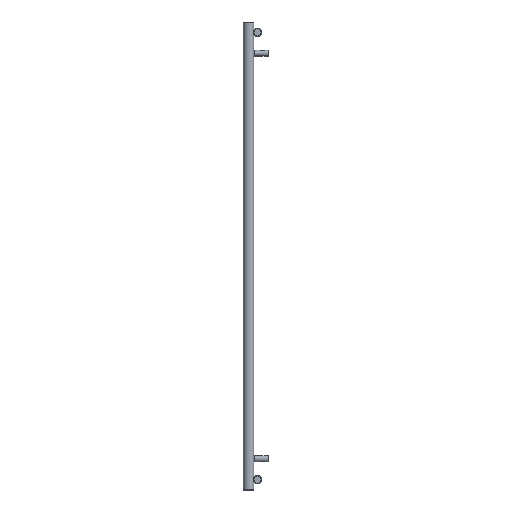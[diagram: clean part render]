
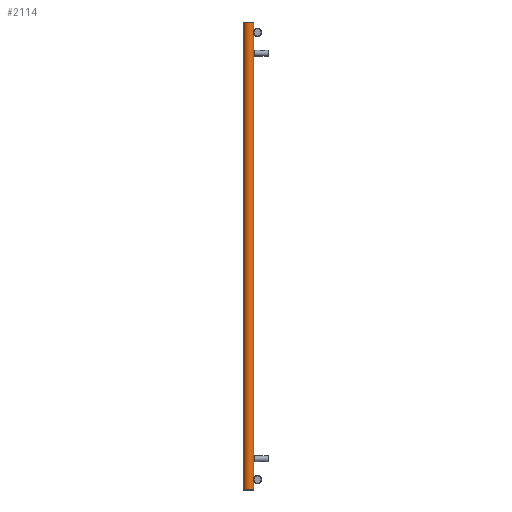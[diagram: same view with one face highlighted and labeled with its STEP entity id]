
A CAD part, left-side view. The second image highlights one B-rep face of the part: STEP entity #2114.
In plain terms, the highlighted cylindrical face has radius 20 mm (diameter 40 mm), a full revolution.
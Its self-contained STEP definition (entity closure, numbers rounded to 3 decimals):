
#164=FACE_BOUND('',#524,.T.);
#165=FACE_BOUND('',#525,.T.);
#199=LINE('',#3579,#274);
#274=VECTOR('',#2618,20.);
#349=CYLINDRICAL_SURFACE('',#2300,20.);
#382=FACE_OUTER_BOUND('',#523,.T.);
#523=EDGE_LOOP('',(#1469,#1470,#1471,#1472,#1473));
#524=EDGE_LOOP('',(#1474));
#525=EDGE_LOOP('',(#1475));
#692=B_SPLINE_CURVE_WITH_KNOTS('',3,(#3463,#3464,#3465,#3466,#3467,#3468,
#3469,#3470,#3471,#3472,#3473,#3474,#3475,#3476,#3477,#3478,#3479,#3480,
#3481,#3482,#3483),.UNSPECIFIED.,.T.,.F.,(4,1,1,1,1,1,1,1,1,1,1,1,1,1,1,
1,1,1,4),(-5.132,-4.765,-4.399,-4.154,
-3.91,-3.788,-3.666,-3.421,
-3.177,-2.933,-2.688,-2.199,
-1.955,-1.711,-1.466,-1.1,
-0.733,-0.367,0.),.UNSPECIFIED.);
#697=B_SPLINE_CURVE_WITH_KNOTS('',3,(#3583,#3584,#3585,#3586,#3587,#3588,
#3589,#3590,#3591,#3592,#3593,#3594,#3595,#3596,#3597,#3598,#3599,#3600,
#3601,#3602,#3603,#3604,#3605,#3606,#3607,#3608,#3609,#3610,#3611,#3612,
#3613,#3614,#3615,#3616,#3617,#3618,#3619,#3620,#3621,#3622,#3623,#3624,
#3625,#3626,#3627,#3628,#3629,#3630,#3631,#3632,#3633,#3634),
 .UNSPECIFIED.,.T.,.F.,(4,3,3,3,3,3,3,3,3,3,3,3,3,3,3,3,3,4),(-5.132,
-4.765,-4.399,-4.032,-3.666,
-3.421,-3.177,-2.933,-2.688,
-2.199,-1.955,-1.711,-1.466,
-1.222,-0.978,-0.733,-0.367,
0.),.UNSPECIFIED.);
#751=CIRCLE('',#2301,20.);
#752=CIRCLE('',#2302,20.);
#753=CIRCLE('',#2303,20.);
#913=VERTEX_POINT('',#3439);
#921=VERTEX_POINT('',#3575);
#922=VERTEX_POINT('',#3576);
#923=VERTEX_POINT('',#3578);
#924=VERTEX_POINT('',#3582);
#1135=EDGE_CURVE('',#913,#913,#692,.T.);
#1143=EDGE_CURVE('',#921,#922,#751,.T.);
#1144=EDGE_CURVE('',#921,#923,#199,.T.);
#1145=EDGE_CURVE('',#923,#923,#752,.T.);
#1146=EDGE_CURVE('',#922,#921,#753,.T.);
#1147=EDGE_CURVE('',#924,#924,#697,.T.);
#1469=ORIENTED_EDGE('',*,*,#1143,.F.);
#1470=ORIENTED_EDGE('',*,*,#1144,.T.);
#1471=ORIENTED_EDGE('',*,*,#1145,.F.);
#1472=ORIENTED_EDGE('',*,*,#1144,.F.);
#1473=ORIENTED_EDGE('',*,*,#1146,.F.);
#1474=ORIENTED_EDGE('',*,*,#1147,.F.);
#1475=ORIENTED_EDGE('',*,*,#1135,.F.);
#2114=ADVANCED_FACE('',(#382,#164,#165),#349,.T.);
#2300=AXIS2_PLACEMENT_3D('',#3574,#2614,#2615);
#2301=AXIS2_PLACEMENT_3D('',#3577,#2616,#2617);
#2302=AXIS2_PLACEMENT_3D('',#3580,#2619,#2620);
#2303=AXIS2_PLACEMENT_3D('',#3581,#2621,#2622);
#2614=DIRECTION('center_axis',(0.,0.,1.));
#2615=DIRECTION('ref_axis',(-1.,0.,0.));
#2616=DIRECTION('center_axis',(0.,0.,1.));
#2617=DIRECTION('ref_axis',(-1.,0.,0.));
#2618=DIRECTION('',(0.,0.,-1.));
#2619=DIRECTION('center_axis',(0.,0.,-1.));
#2620=DIRECTION('ref_axis',(-1.,0.,0.));
#2621=DIRECTION('center_axis',(0.,0.,1.));
#2622=DIRECTION('ref_axis',(-1.,0.,0.));
#3439=CARTESIAN_POINT('',(-220.,-20.,50.1));
#3463=CARTESIAN_POINT('Ctrl Pts',(-220.,-20.,50.1));
#3464=CARTESIAN_POINT('Ctrl Pts',(-221.611,-20.,50.1));
#3465=CARTESIAN_POINT('Ctrl Pts',(-224.838,-19.598,49.587));
#3466=CARTESIAN_POINT('Ctrl Pts',(-228.411,-18.224,47.307));
#3467=CARTESIAN_POINT('Ctrl Pts',(-230.379,-17.114,44.115));
#3468=CARTESIAN_POINT('Ctrl Pts',(-230.993,-16.707,41.396));
#3469=CARTESIAN_POINT('Ctrl Pts',(-230.992,-16.708,39.163));
#3470=CARTESIAN_POINT('Ctrl Pts',(-230.666,-16.92,36.968));
#3471=CARTESIAN_POINT('Ctrl Pts',(-229.649,-17.552,34.429));
#3472=CARTESIAN_POINT('Ctrl Pts',(-227.534,-18.592,32.083));
#3473=CARTESIAN_POINT('Ctrl Pts',(-224.761,-19.504,30.58));
#3474=CARTESIAN_POINT('Ctrl Pts',(-220.581,-20.198,29.637));
#3475=CARTESIAN_POINT('Ctrl Pts',(-216.165,-19.824,30.09));
#3476=CARTESIAN_POINT('Ctrl Pts',(-212.466,-18.588,32.082));
#3477=CARTESIAN_POINT('Ctrl Pts',(-210.351,-17.556,34.43));
#3478=CARTESIAN_POINT('Ctrl Pts',(-208.927,-16.66,37.98));
#3479=CARTESIAN_POINT('Ctrl Pts',(-208.922,-16.66,42.599));
#3480=CARTESIAN_POINT('Ctrl Pts',(-211.137,-18.052,47.027));
#3481=CARTESIAN_POINT('Ctrl Pts',(-215.165,-19.6,49.585));
#3482=CARTESIAN_POINT('Ctrl Pts',(-218.389,-20.,50.1));
#3483=CARTESIAN_POINT('Ctrl Pts',(-220.,-20.,50.1));
#3574=CARTESIAN_POINT('Origin',(-220.,0.,0.));
#3575=CARTESIAN_POINT('',(-200.,0.,1798.));
#3576=CARTESIAN_POINT('',(-240.,0.,1798.));
#3577=CARTESIAN_POINT('Origin',(-220.,0.,1798.));
#3578=CARTESIAN_POINT('',(-200.,0.,2.));
#3579=CARTESIAN_POINT('',(-200.,0.,0.));
#3580=CARTESIAN_POINT('Origin',(-220.,0.,2.));
#3581=CARTESIAN_POINT('Origin',(-220.,0.,1798.));
#3582=CARTESIAN_POINT('',(-220.,-20.,1770.1));
#3583=CARTESIAN_POINT('Ctrl Pts',(-220.,-20.,1770.1));
#3584=CARTESIAN_POINT('Ctrl Pts',(-221.611,-20.,1770.1));
#3585=CARTESIAN_POINT('Ctrl Pts',(-223.223,-19.8,1769.843));
#3586=CARTESIAN_POINT('Ctrl Pts',(-224.7,-19.442,1769.288));
#3587=CARTESIAN_POINT('Ctrl Pts',(-226.178,-19.084,1768.733));
#3588=CARTESIAN_POINT('Ctrl Pts',(-227.52,-18.568,1767.88));
#3589=CARTESIAN_POINT('Ctrl Pts',(-228.561,-18.078,1766.716));
#3590=CARTESIAN_POINT('Ctrl Pts',(-229.601,-17.588,1765.552));
#3591=CARTESIAN_POINT('Ctrl Pts',(-230.34,-17.124,1764.076));
#3592=CARTESIAN_POINT('Ctrl Pts',(-230.708,-16.892,1762.472));
#3593=CARTESIAN_POINT('Ctrl Pts',(-231.076,-16.659,1760.868));
#3594=CARTESIAN_POINT('Ctrl Pts',(-231.074,-16.66,1759.136));
#3595=CARTESIAN_POINT('Ctrl Pts',(-230.707,-16.889,1757.53));
#3596=CARTESIAN_POINT('Ctrl Pts',(-230.462,-17.042,1756.459));
#3597=CARTESIAN_POINT('Ctrl Pts',(-230.056,-17.297,1755.444));
#3598=CARTESIAN_POINT('Ctrl Pts',(-229.5,-17.598,1754.546));
#3599=CARTESIAN_POINT('Ctrl Pts',(-228.944,-17.898,1753.647));
#3600=CARTESIAN_POINT('Ctrl Pts',(-228.239,-18.244,1752.865));
#3601=CARTESIAN_POINT('Ctrl Pts',(-227.424,-18.569,1752.223));
#3602=CARTESIAN_POINT('Ctrl Pts',(-226.61,-18.894,1751.582));
#3603=CARTESIAN_POINT('Ctrl Pts',(-225.685,-19.198,1751.081));
#3604=CARTESIAN_POINT('Ctrl Pts',(-224.7,-19.437,1750.713));
#3605=CARTESIAN_POINT('Ctrl Pts',(-223.716,-19.677,1750.345));
#3606=CARTESIAN_POINT('Ctrl Pts',(-222.671,-19.852,1750.11));
#3607=CARTESIAN_POINT('Ctrl Pts',(-221.606,-19.937,1749.991));
#3608=CARTESIAN_POINT('Ctrl Pts',(-219.477,-20.106,1749.752));
#3609=CARTESIAN_POINT('Ctrl Pts',(-217.268,-19.915,1749.976));
#3610=CARTESIAN_POINT('Ctrl Pts',(-215.299,-19.441,1750.715));
#3611=CARTESIAN_POINT('Ctrl Pts',(-214.315,-19.205,1751.084));
#3612=CARTESIAN_POINT('Ctrl Pts',(-213.39,-18.897,1751.583));
#3613=CARTESIAN_POINT('Ctrl Pts',(-212.575,-18.571,1752.224));
#3614=CARTESIAN_POINT('Ctrl Pts',(-211.761,-18.244,1752.865));
#3615=CARTESIAN_POINT('Ctrl Pts',(-211.056,-17.9,1753.648));
#3616=CARTESIAN_POINT('Ctrl Pts',(-210.5,-17.6,1754.547));
#3617=CARTESIAN_POINT('Ctrl Pts',(-209.944,-17.301,1755.446));
#3618=CARTESIAN_POINT('Ctrl Pts',(-209.537,-17.047,1756.461));
#3619=CARTESIAN_POINT('Ctrl Pts',(-209.293,-16.892,1757.531));
#3620=CARTESIAN_POINT('Ctrl Pts',(-209.049,-16.737,1758.601));
#3621=CARTESIAN_POINT('Ctrl Pts',(-208.967,-16.682,1759.727));
#3622=CARTESIAN_POINT('Ctrl Pts',(-209.049,-16.735,1760.834));
#3623=CARTESIAN_POINT('Ctrl Pts',(-209.13,-16.788,1761.941));
#3624=CARTESIAN_POINT('Ctrl Pts',(-209.375,-16.95,1763.029));
#3625=CARTESIAN_POINT('Ctrl Pts',(-209.779,-17.19,1764.029));
#3626=CARTESIAN_POINT('Ctrl Pts',(-210.183,-17.43,1765.029));
#3627=CARTESIAN_POINT('Ctrl Pts',(-210.745,-17.748,1765.94));
#3628=CARTESIAN_POINT('Ctrl Pts',(-211.44,-18.075,1766.715));
#3629=CARTESIAN_POINT('Ctrl Pts',(-212.482,-18.567,1767.878));
#3630=CARTESIAN_POINT('Ctrl Pts',(-213.822,-19.082,1768.733));
#3631=CARTESIAN_POINT('Ctrl Pts',(-215.299,-19.44,1769.288));
#3632=CARTESIAN_POINT('Ctrl Pts',(-216.776,-19.799,1769.844));
#3633=CARTESIAN_POINT('Ctrl Pts',(-218.389,-20.,1770.1));
#3634=CARTESIAN_POINT('Ctrl Pts',(-220.,-20.,1770.1));
